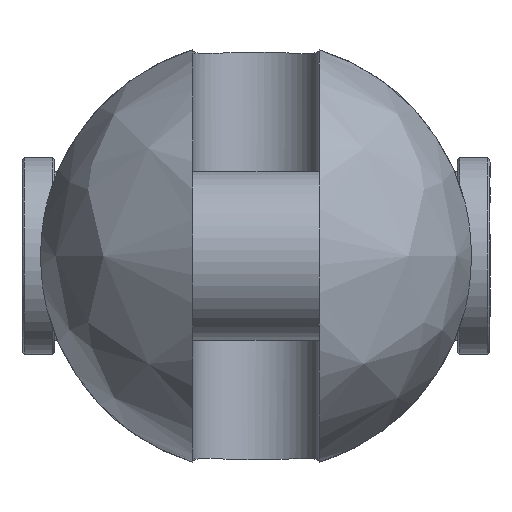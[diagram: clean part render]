
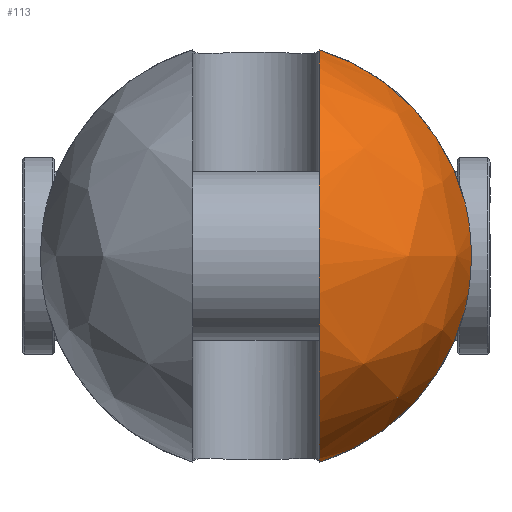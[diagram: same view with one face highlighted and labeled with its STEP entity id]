
A CAD part, left-side view. The second image highlights one B-rep face of the part: STEP entity #113.
In plain terms, the highlighted free-form (B-spline) face has degree [2, 2] with [9, 5] control points.
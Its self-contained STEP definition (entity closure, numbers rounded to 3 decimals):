
#113=ADVANCED_FACE('',(#200),#1527,.T.);
#200=FACE_OUTER_BOUND('',#299,.T.);
#299=EDGE_LOOP('',(#741,#742,#743,#744));
#741=ORIENTED_EDGE('',*,*,#998,.T.);
#742=ORIENTED_EDGE('',*,*,#995,.F.);
#743=ORIENTED_EDGE('',*,*,#1015,.T.);
#744=ORIENTED_EDGE('',*,*,#987,.F.);
#987=EDGE_CURVE('',#1418,#1419,#1249,.T.);
#995=EDGE_CURVE('',#1426,#1427,#1250,.T.);
#998=EDGE_CURVE('',#1418,#1427,#1252,.T.);
#1015=EDGE_CURVE('',#1426,#1419,#1123,.T.);
#1123=B_SPLINE_CURVE_WITH_KNOTS('',3,(#3592,#3593,#3594,#3595,#3596,#3597,
#3598,#3599,#3600,#3601,#3602,#3603,#3604,#3605),.UNSPECIFIED.,.F.,.F.,
(4,2,2,2,2,2,4),(0.,1.151,6.447,11.742,17.038,
22.334,23.485),.UNSPECIFIED.);
#1249=(
BOUNDED_CURVE()
B_SPLINE_CURVE(2,(#3442,#3443,#3444),.UNSPECIFIED.,.F.,.F.)
B_SPLINE_CURVE_WITH_KNOTS((3,3),(0.,47.354),.UNSPECIFIED.)
CURVE()
GEOMETRIC_REPRESENTATION_ITEM()
RATIONAL_B_SPLINE_CURVE((1.,0.87,1.))
REPRESENTATION_ITEM('')
);
#1250=(
BOUNDED_CURVE()
B_SPLINE_CURVE(2,(#3499,#3500,#3501),.UNSPECIFIED.,.F.,.F.)
B_SPLINE_CURVE_WITH_KNOTS((3,3),(0.,47.354),.UNSPECIFIED.)
CURVE()
GEOMETRIC_REPRESENTATION_ITEM()
RATIONAL_B_SPLINE_CURVE((1.,0.87,1.))
REPRESENTATION_ITEM('')
);
#1252=(
BOUNDED_CURVE()
B_SPLINE_CURVE(2,(#3507,#3508,#3509,#3510,#3511),.UNSPECIFIED.,.F.,.F.)
B_SPLINE_CURVE_WITH_KNOTS((3,2,3),(-138.15,-69.075,
0.),.UNSPECIFIED.)
CURVE()
GEOMETRIC_REPRESENTATION_ITEM()
RATIONAL_B_SPLINE_CURVE((1.,0.707,1.,0.707,1.))
REPRESENTATION_ITEM('')
);
#1418=VERTEX_POINT('',#3274);
#1419=VERTEX_POINT('',#3275);
#1426=VERTEX_POINT('',#3282);
#1427=VERTEX_POINT('',#3283);
#1527=(
BOUNDED_SURFACE()
B_SPLINE_SURFACE(2,2,((#3146,#3147,#3148,#3149,#3150),(#3151,#3152,#3153,
#3154,#3155),(#3156,#3157,#3158,#3159,#3160),(#3161,#3162,#3163,#3164,#3165),
(#3166,#3167,#3168,#3169,#3170),(#3171,#3172,#3173,#3174,#3175),(#3176,
#3177,#3178,#3179,#3180),(#3181,#3182,#3183,#3184,#3185),(#3186,#3187,#3188,
#3189,#3190)),.UNSPECIFIED.,.T.,.F.,.F.)
B_SPLINE_SURFACE_WITH_KNOTS((3,2,2,2,3),(3,2,3),(0.,72.257,144.513,
216.77,289.027),(0.,72.257,144.513),
 .UNSPECIFIED.)
GEOMETRIC_REPRESENTATION_ITEM()
RATIONAL_B_SPLINE_SURFACE(((1.,0.707,1.,0.707,1.),
(0.707,0.5,0.707,0.5,0.707),(1.,0.707,
1.,0.707,1.),(0.707,0.5,0.707,0.5,0.707),
(1.,0.707,1.,0.707,1.),(0.707,0.5,0.707,
0.5,0.707),(1.,0.707,1.,0.707,1.),(0.707,
0.5,0.707,0.5,0.707),(1.,0.707,1.,0.707,
1.)))
REPRESENTATION_ITEM('')
SURFACE()
);
#3146=CARTESIAN_POINT('',(-65.,0.,0.));
#3147=CARTESIAN_POINT('',(-65.,46.,0.));
#3148=CARTESIAN_POINT('',(-19.,46.,0.));
#3149=CARTESIAN_POINT('',(27.,46.,0.));
#3150=CARTESIAN_POINT('',(27.,0.,0.));
#3151=CARTESIAN_POINT('',(-65.,0.,0.));
#3152=CARTESIAN_POINT('',(-65.,46.,46.));
#3153=CARTESIAN_POINT('',(-19.,46.,46.));
#3154=CARTESIAN_POINT('',(27.,46.,46.));
#3155=CARTESIAN_POINT('',(27.,0.,0.));
#3156=CARTESIAN_POINT('',(-65.,0.,0.));
#3157=CARTESIAN_POINT('',(-65.,0.,46.));
#3158=CARTESIAN_POINT('',(-19.,0.,46.));
#3159=CARTESIAN_POINT('',(27.,0.,46.));
#3160=CARTESIAN_POINT('',(27.,0.,0.));
#3161=CARTESIAN_POINT('',(-65.,0.,0.));
#3162=CARTESIAN_POINT('',(-65.,-46.,46.));
#3163=CARTESIAN_POINT('',(-19.,-46.,46.));
#3164=CARTESIAN_POINT('',(27.,-46.,46.));
#3165=CARTESIAN_POINT('',(27.,0.,0.));
#3166=CARTESIAN_POINT('',(-65.,0.,0.));
#3167=CARTESIAN_POINT('',(-65.,-46.,0.));
#3168=CARTESIAN_POINT('',(-19.,-46.,0.));
#3169=CARTESIAN_POINT('',(27.,-46.,0.));
#3170=CARTESIAN_POINT('',(27.,0.,0.));
#3171=CARTESIAN_POINT('',(-65.,0.,0.));
#3172=CARTESIAN_POINT('',(-65.,-46.,-46.));
#3173=CARTESIAN_POINT('',(-19.,-46.,-46.));
#3174=CARTESIAN_POINT('',(27.,-46.,-46.));
#3175=CARTESIAN_POINT('',(27.,0.,0.));
#3176=CARTESIAN_POINT('',(-65.,0.,0.));
#3177=CARTESIAN_POINT('',(-65.,0.,-46.));
#3178=CARTESIAN_POINT('',(-19.,0.,-46.));
#3179=CARTESIAN_POINT('',(27.,0.,-46.));
#3180=CARTESIAN_POINT('',(27.,0.,0.));
#3181=CARTESIAN_POINT('',(-65.,0.,0.));
#3182=CARTESIAN_POINT('',(-65.,46.,-46.));
#3183=CARTESIAN_POINT('',(-19.,46.,-46.));
#3184=CARTESIAN_POINT('',(27.,46.,-46.));
#3185=CARTESIAN_POINT('',(27.,0.,0.));
#3186=CARTESIAN_POINT('',(-65.,0.,0.));
#3187=CARTESIAN_POINT('',(-65.,46.,0.));
#3188=CARTESIAN_POINT('',(-19.,46.,0.));
#3189=CARTESIAN_POINT('',(27.,46.,0.));
#3190=CARTESIAN_POINT('',(27.,0.,0.));
#3274=CARTESIAN_POINT('',(-19.,-13.5,43.974));
#3275=CARTESIAN_POINT('',(-19.,-44.643,11.091));
#3282=CARTESIAN_POINT('',(-19.,-44.643,-11.091));
#3283=CARTESIAN_POINT('',(-19.,-13.5,-43.974));
#3442=CARTESIAN_POINT('',(-19.,-13.5,43.974));
#3443=CARTESIAN_POINT('',(-19.,-38.371,36.339));
#3444=CARTESIAN_POINT('',(-19.,-44.643,11.091));
#3499=CARTESIAN_POINT('',(-19.,-44.643,-11.091));
#3500=CARTESIAN_POINT('',(-19.,-38.371,-36.339));
#3501=CARTESIAN_POINT('',(-19.,-13.5,-43.974));
#3507=CARTESIAN_POINT('',(-19.,-13.5,43.974));
#3508=CARTESIAN_POINT('',(-62.974,-13.5,43.974));
#3509=CARTESIAN_POINT('',(-62.974,-13.5,0.));
#3510=CARTESIAN_POINT('',(-62.974,-13.5,-43.974));
#3511=CARTESIAN_POINT('',(-19.,-13.5,-43.974));
#3592=CARTESIAN_POINT('',(-19.,-44.643,-11.091));
#3593=CARTESIAN_POINT('',(-19.191,-44.724,-10.763));
#3594=CARTESIAN_POINT('',(-19.374,-44.802,-10.43));
#3595=CARTESIAN_POINT('',(-20.351,-45.216,-8.538));
#3596=CARTESIAN_POINT('',(-20.972,-45.475,-6.873));
#3597=CARTESIAN_POINT('',(-21.797,-45.818,-3.461));
#3598=CARTESIAN_POINT('',(-22.,-45.902,-1.713));
#3599=CARTESIAN_POINT('',(-22.,-45.902,1.713));
#3600=CARTESIAN_POINT('',(-21.797,-45.818,3.461));
#3601=CARTESIAN_POINT('',(-20.972,-45.475,6.873));
#3602=CARTESIAN_POINT('',(-20.351,-45.216,8.538));
#3603=CARTESIAN_POINT('',(-19.374,-44.802,10.43));
#3604=CARTESIAN_POINT('',(-19.191,-44.724,10.763));
#3605=CARTESIAN_POINT('',(-19.,-44.643,11.091));
